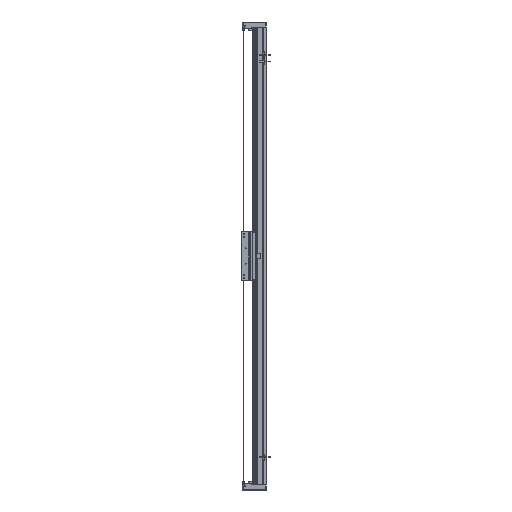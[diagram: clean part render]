
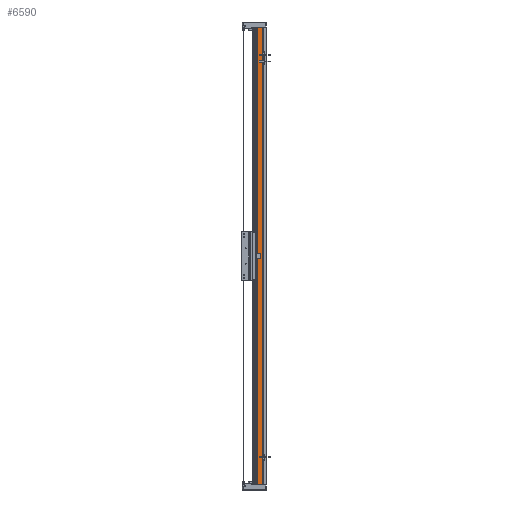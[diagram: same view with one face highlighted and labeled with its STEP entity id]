
A CAD part, left-side view. The second image highlights one B-rep face of the part: STEP entity #6590.
In plain terms, the highlighted planar face has unit normal (-1, 0, 0).
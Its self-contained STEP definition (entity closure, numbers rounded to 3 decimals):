
#1349 = VECTOR ( 'NONE', #106993, 1000. ) ;
#3252 = DIRECTION ( 'NONE',  ( 0., 0., -1. ) ) ;
#6590 = ADVANCED_FACE ( 'NONE', ( #58904 ), #34719, .F. ) ;
#9226 = CARTESIAN_POINT ( 'NONE',  ( -82.5, 36.95, -900. ) ) ;
#12024 = ORIENTED_EDGE ( 'NONE', *, *, #86024, .F. ) ;
#12425 = EDGE_CURVE ( 'NONE', #49019, #71970, #48503, .T. ) ;
#14849 = DIRECTION ( 'NONE',  ( 0., -1., 0. ) ) ;
#17978 = CARTESIAN_POINT ( 'NONE',  ( -82.5, 36.95, -900. ) ) ;
#18070 = CARTESIAN_POINT ( 'NONE',  ( -82.5, 14.45, -900. ) ) ;
#26642 = LINE ( 'NONE', #9226, #40445 ) ;
#28580 = LINE ( 'NONE', #97186, #70367 ) ;
#34719 = PLANE ( 'NONE',  #72409 ) ;
#40445 = VECTOR ( 'NONE', #60986, 1000. ) ;
#40966 = CARTESIAN_POINT ( 'NONE',  ( -82.5, 36.95, 900. ) ) ;
#44267 = DIRECTION ( 'NONE',  ( 1., 0., 0. ) ) ;
#47439 = EDGE_LOOP ( 'NONE', ( #89907, #69720, #12024, #69466 ) ) ;
#48503 = LINE ( 'NONE', #83897, #1349 ) ;
#49019 = VERTEX_POINT ( 'NONE', #79312 ) ;
#51866 = EDGE_CURVE ( 'NONE', #108434, #71970, #26642, .T. ) ;
#52691 = DIRECTION ( 'NONE',  ( 0., 1., 0. ) ) ;
#58904 = FACE_OUTER_BOUND ( 'NONE', #47439, .T. ) ;
#59857 = LINE ( 'NONE', #94150, #69995 ) ;
#60986 = DIRECTION ( 'NONE',  ( 0., -1., 0. ) ) ;
#69466 = ORIENTED_EDGE ( 'NONE', *, *, #71338, .T. ) ;
#69720 = ORIENTED_EDGE ( 'NONE', *, *, #12425, .F. ) ;
#69995 = VECTOR ( 'NONE', #14849, 1000. ) ;
#70367 = VECTOR ( 'NONE', #3252, 1000. ) ;
#71338 = EDGE_CURVE ( 'NONE', #89923, #108434, #28580, .T. ) ;
#71970 = VERTEX_POINT ( 'NONE', #18070 ) ;
#72409 = AXIS2_PLACEMENT_3D ( 'NONE', #103302, #44267, #52691 ) ;
#79312 = CARTESIAN_POINT ( 'NONE',  ( -82.5, 14.45, 900. ) ) ;
#83897 = CARTESIAN_POINT ( 'NONE',  ( -82.5, 14.45, 900. ) ) ;
#86024 = EDGE_CURVE ( 'NONE', #89923, #49019, #59857, .T. ) ;
#89907 = ORIENTED_EDGE ( 'NONE', *, *, #51866, .T. ) ;
#89923 = VERTEX_POINT ( 'NONE', #40966 ) ;
#94150 = CARTESIAN_POINT ( 'NONE',  ( -82.5, 36.95, 900. ) ) ;
#97186 = CARTESIAN_POINT ( 'NONE',  ( -82.5, 36.95, 900. ) ) ;
#103302 = CARTESIAN_POINT ( 'NONE',  ( -82.5, 36.95, 900. ) ) ;
#106993 = DIRECTION ( 'NONE',  ( 0., 0., -1. ) ) ;
#108434 = VERTEX_POINT ( 'NONE', #17978 ) ;
